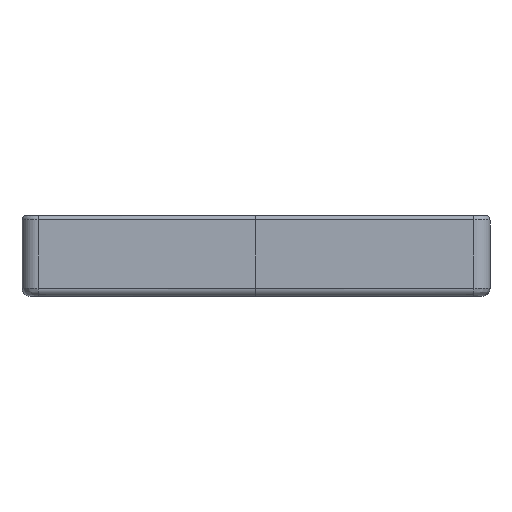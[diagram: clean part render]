
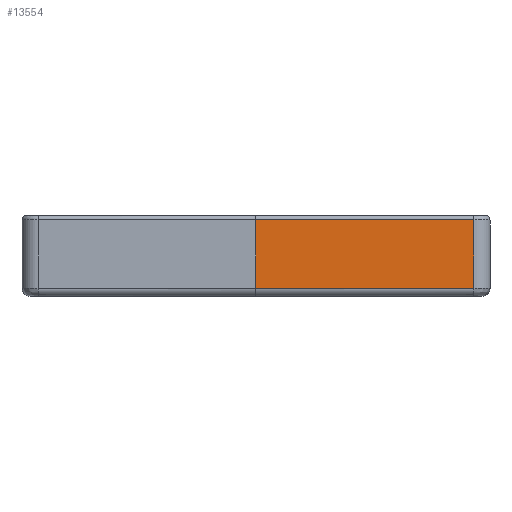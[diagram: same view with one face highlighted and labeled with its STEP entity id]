
A CAD part, left-side view. The second image highlights one B-rep face of the part: STEP entity #13554.
In plain terms, the highlighted planar face has unit normal (-1, 0, 0).
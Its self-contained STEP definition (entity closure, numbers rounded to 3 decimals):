
#793 = EDGE_CURVE ( 'NONE', #15185, #19926, #5499, .T. ) ;
#2237 = LINE ( 'NONE', #11610, #14137 ) ;
#2318 = DIRECTION ( 'NONE',  ( 0., 1., 0. ) ) ;
#2447 = VERTEX_POINT ( 'NONE', #13811 ) ;
#3014 = EDGE_CURVE ( 'NONE', #11503, #19926, #3813, .T. ) ;
#3813 = LINE ( 'NONE', #16966, #4289 ) ;
#4289 = VECTOR ( 'NONE', #9178, 1000. ) ;
#4433 = DIRECTION ( 'NONE',  ( 1., 0., 0. ) ) ;
#4824 = CARTESIAN_POINT ( 'NONE',  ( -34.9, -26.948, -4. ) ) ;
#5499 = B_SPLINE_CURVE_WITH_KNOTS ( 'NONE', 3,
 ( #18492, #10761, #15339, #13862 ),
 .UNSPECIFIED., .F., .F.,
 ( 4, 4 ),
 ( 0., 1. ),
 .UNSPECIFIED. ) ;
#5961 = DIRECTION ( 'NONE',  ( 0., -1., 0. ) ) ;
#6326 = LINE ( 'NONE', #19617, #9983 ) ;
#7119 = EDGE_CURVE ( 'NONE', #2447, #15185, #2237, .T. ) ;
#7196 = CARTESIAN_POINT ( 'NONE',  ( -34.9, 0.052, -4. ) ) ;
#8174 = ORIENTED_EDGE ( 'NONE', *, *, #3014, .F. ) ;
#8271 = ORIENTED_EDGE ( 'NONE', *, *, #793, .T. ) ;
#9178 = DIRECTION ( 'NONE',  ( 0., 1., 0. ) ) ;
#9231 = ORIENTED_EDGE ( 'NONE', *, *, #7119, .T. ) ;
#9983 = VECTOR ( 'NONE', #18320, 1000. ) ;
#9994 = ORIENTED_EDGE ( 'NONE', *, *, #18235, .F. ) ;
#10761 = CARTESIAN_POINT ( 'NONE',  ( -34.9, 0.052, 1.667 ) ) ;
#11503 = VERTEX_POINT ( 'NONE', #4824 ) ;
#11610 = CARTESIAN_POINT ( 'NONE',  ( -34.9, -13.448, 4.5 ) ) ;
#13554 = ADVANCED_FACE ( 'NONE', ( #18904 ), #15519, .F. ) ;
#13811 = CARTESIAN_POINT ( 'NONE',  ( -34.9, -26.948, 4.5 ) ) ;
#13862 = CARTESIAN_POINT ( 'NONE',  ( -34.9, 0.052, -4. ) ) ;
#14137 = VECTOR ( 'NONE', #2318, 1000. ) ;
#15185 = VERTEX_POINT ( 'NONE', #15568 ) ;
#15339 = CARTESIAN_POINT ( 'NONE',  ( -34.9, 0.052, -1.167 ) ) ;
#15519 = PLANE ( 'NONE',  #16785 ) ;
#15568 = CARTESIAN_POINT ( 'NONE',  ( -34.9, 0.052, 4.5 ) ) ;
#16785 = AXIS2_PLACEMENT_3D ( 'NONE', #17095, #4433, #5961 ) ;
#16966 = CARTESIAN_POINT ( 'NONE',  ( -34.9, -13.448, -4. ) ) ;
#17095 = CARTESIAN_POINT ( 'NONE',  ( -34.9, 0.592, 4.67 ) ) ;
#18235 = EDGE_CURVE ( 'NONE', #2447, #11503, #6326, .T. ) ;
#18320 = DIRECTION ( 'NONE',  ( 0., 0., -1. ) ) ;
#18492 = CARTESIAN_POINT ( 'NONE',  ( -34.9, 0.052, 4.5 ) ) ;
#18904 = FACE_OUTER_BOUND ( 'NONE', #19682, .T. ) ;
#19617 = CARTESIAN_POINT ( 'NONE',  ( -34.9, -26.948, 0.25 ) ) ;
#19682 = EDGE_LOOP ( 'NONE', ( #9994, #9231, #8271, #8174 ) ) ;
#19926 = VERTEX_POINT ( 'NONE', #7196 ) ;
